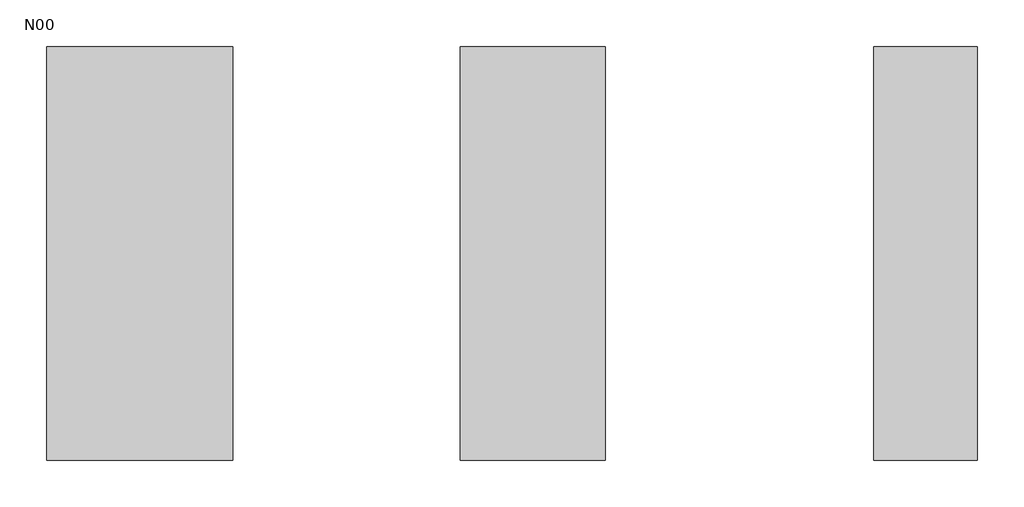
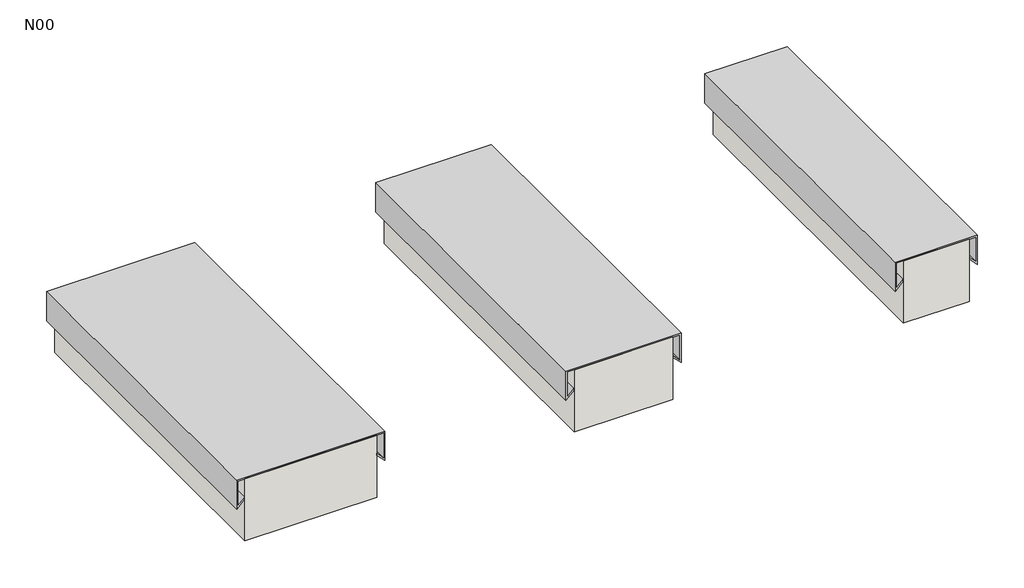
# One storey: 3 proxies, 3 walls.
"""IFC4 building model written with IfcOpenShell, lengths in millimetres."""

from ifc_helpers import new_model, si_unit, frame, origin, place, context, project, spatial, polyline, outline, extrude, faceted_brep, element, save

model = new_model("IFC4")

# Units and contexts
model_context = context("Model", 3, world=origin())
ifc_project = project(units=[si_unit("LENGTHUNIT", "METRE", prefix="MILLI")], contexts=[model_context])

# Site, building, storey
site = spatial("IfcSite", under=ifc_project)
building = spatial("IfcBuilding", under=site)
storey = spatial("IfcBuildingStorey", under=building, Name="N00", Elevation=0.0)

# Proxies
placement = place(None, origin())
element("IfcBuildingElementProxy", 1, Name="ARQ_Chapim_15cm", ObjectType="ARQ_Chapim_15cm", at=placement, inside=storey, context=model_context, shape_type="SweptSolid", body=[
    extrude(outline(polyline([(60.0, 3625.7563816), (70.6066017, 3615.1497799), (67.7781746, 3615.1497799), (55.1715729, 3627.7563816), (102.0, 3627.7563816), (102.0, 3452.5431781), (55.1715729, 3452.5431781), (67.7781746, 3465.1497799), (70.6066017, 3465.1497799), (60.0, 3454.5431781), (100.0, 3454.5431781), (100.0, 3625.7563816), (60.0, 3625.7563816)])), frame((0.0, -1147.545655, 0.0), z_axis=(0.0, 1.0, 0.0), x_axis=(0.0, 0.0, 1.0)), (0.0, 0.0, 1.0), 500.0),
])
element("IfcBuildingElementProxy", 2, Name="ARQ_Chapim_10cm", ObjectType="ARQ_Chapim_10cm", at=placement, inside=storey, context=model_context, shape_type="SweptSolid", body=[
    extrude(outline(polyline([(60.0, 4075.7563816), (70.6066017, 4065.1497799), (67.7781746, 4065.1497799), (55.1715729, 4077.7563816), (102.0, 4077.7563816), (102.0, 3952.5431781), (55.1715729, 3952.5431781), (67.7781746, 3965.1497799), (70.6066017, 3965.1497799), (60.0, 3954.5431781), (100.0, 3954.5431781), (100.0, 4075.7563816), (60.0, 4075.7563816)])), frame((0.0, -1147.545655, 0.0), z_axis=(0.0, 1.0, 0.0), x_axis=(0.0, 0.0, 1.0)), (0.0, 0.0, 1.0), 500.0),
])
element("IfcBuildingElementProxy", 3, Name="ARQ_Chapim_20cm", ObjectType="ARQ_Chapim_20cm", at=placement, inside=storey, context=model_context, shape_type="SweptSolid", body=[
    extrude(outline(polyline([(60.0, 3175.7563816), (70.6066017, 3165.1497799), (67.7781746, 3165.1497799), (55.1715729, 3177.7563816), (102.0, 3177.7563816), (102.0, 2952.5431781), (55.1715729, 2952.5431781), (67.7781746, 2965.1497799), (70.6066017, 2965.1497799), (60.0, 2954.5431781), (100.0, 2954.5431781), (100.0, 3175.7563816), (60.0, 3175.7563816)])), frame((0.0, -1147.545655, 0.0), z_axis=(0.0, 1.0, 0.0), x_axis=(0.0, 0.0, 1.0)), (0.0, 0.0, 1.0), 500.0),
])

# Walls
element("IfcWall", 4, ObjectType="ARQ_Parede_TijoloCerâmico_15CM", at=placement, inside=storey, context=model_context, shape_type="Brep", body=[
    faceted_brep([(3615.1497799, -1147.545655, 0.0), (3615.1497799, -647.545655, 0.0), (3615.1497799, -647.545655, 67.7781746), (3615.1497799, -647.545655, 70.6066017), (3615.1497799, -647.545655, 100.0), (3615.1497799, -1147.545655, 100.0), (3615.1497799, -1147.545655, 70.6066017), (3615.1497799, -1147.545655, 67.7781746), (3465.1497799, -647.545655, 0.0), (3465.1497799, -1147.545655, 0.0), (3465.1497799, -1147.545655, 67.7781746), (3465.1497799, -1147.545655, 70.6066017), (3465.1497799, -1147.545655, 100.0), (3465.1497799, -647.545655, 100.0), (3465.1497799, -647.545655, 70.6066017), (3465.1497799, -647.545655, 67.7781746)], [[[0, 1, 2, 3, 4, 5, 6, 7]], [[8, 9, 10, 11, 12, 13, 14, 15]], [[1, 0, 9, 8]], [[1, 8, 15, 14, 13, 4, 3, 2]], [[5, 4, 13, 12]], [[5, 12, 11, 10, 9, 0, 7, 6]]]),
])
element("IfcWall", 5, ObjectType="ARQ_Parede_TijoloCerâmico_10CM", at=placement, inside=storey, context=model_context, shape_type="Brep", body=[
    faceted_brep([(4065.1497799, -1147.545655, 0.0), (4065.1497799, -647.545655, 0.0), (4065.1497799, -647.545655, 67.7781746), (4065.1497799, -647.545655, 70.6066017), (4065.1497799, -647.545655, 100.0), (4065.1497799, -1147.545655, 100.0), (4065.1497799, -1147.545655, 70.6066017), (4065.1497799, -1147.545655, 67.7781746), (3965.1497799, -647.545655, 0.0), (3965.1497799, -1147.545655, 0.0), (3965.1497799, -1147.545655, 67.7781746), (3965.1497799, -1147.545655, 70.6066017), (3965.1497799, -1147.545655, 100.0), (3965.1497799, -647.545655, 100.0), (3965.1497799, -647.545655, 70.6066017), (3965.1497799, -647.545655, 67.7781746)], [[[0, 1, 2, 3, 4, 5, 6, 7]], [[8, 9, 10, 11, 12, 13, 14, 15]], [[1, 0, 9, 8]], [[1, 8, 15, 14, 13, 4, 3, 2]], [[5, 4, 13, 12]], [[5, 12, 11, 10, 9, 0, 7, 6]]]),
])
element("IfcWall", 6, ObjectType="ARQ_Parede_TijoloCerâmico_20CM", at=placement, inside=storey, context=model_context, shape_type="Brep", body=[
    faceted_brep([(3165.1497799, -1147.545655, 0.0), (3165.1497799, -647.545655, 0.0), (3165.1497799, -647.545655, 67.7781746), (3165.1497799, -647.545655, 70.6066017), (3165.1497799, -647.545655, 100.0), (3165.1497799, -1147.545655, 100.0), (3165.1497799, -1147.545655, 70.6066017), (3165.1497799, -1147.545655, 67.7781746), (2965.1497799, -647.545655, 0.0), (2965.1497799, -1147.545655, 0.0), (2965.1497799, -1147.545655, 67.7781746), (2965.1497799, -1147.545655, 70.6066017), (2965.1497799, -1147.545655, 100.0), (2965.1497799, -647.545655, 100.0), (2965.1497799, -647.545655, 70.6066017), (2965.1497799, -647.545655, 67.7781746)], [[[0, 1, 2, 3, 4, 5, 6, 7]], [[8, 9, 10, 11, 12, 13, 14, 15]], [[1, 0, 9, 8]], [[1, 8, 15, 14, 13, 4, 3, 2]], [[5, 4, 13, 12]], [[5, 12, 11, 10, 9, 0, 7, 6]]]),
])

save(model, "model.ifc")
